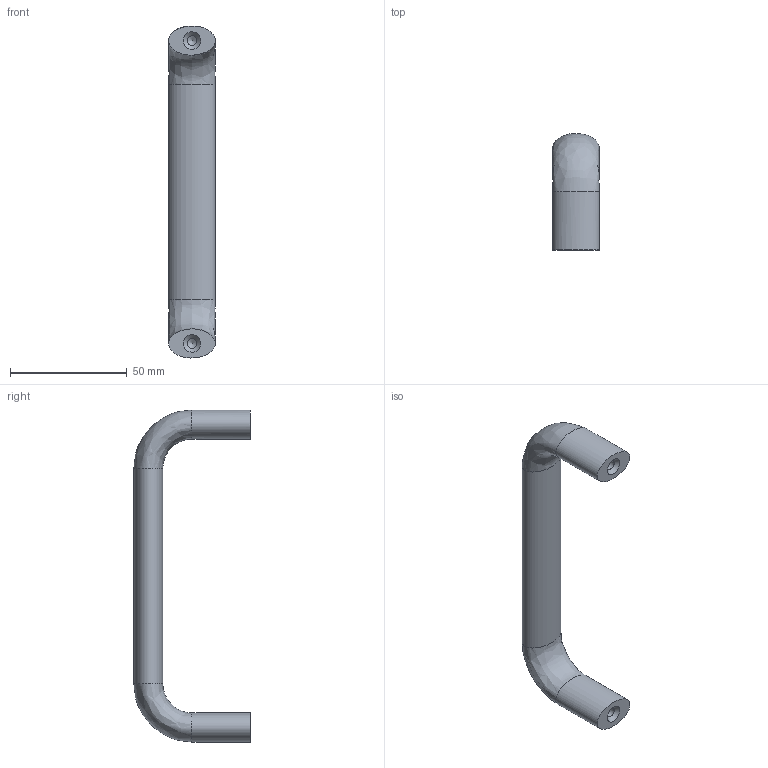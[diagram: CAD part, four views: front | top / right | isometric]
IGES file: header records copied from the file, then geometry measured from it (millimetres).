
Global section: file name: DR_A-GA20-130; native system: Autodesk Inventor 2015; preprocessor: unknown; author: user; date: 20191113.100303; units: millimetre
Bounding box: 20 x 49.99 x 142.48 mm (x, y, z)
Volume: 39818.2 mm3; surface area: 11737.1 mm2
Topology: 1 solids, 1 shells, 13 faces, 37 edges, 26 vertices
Faces by surface type: bspline 13
